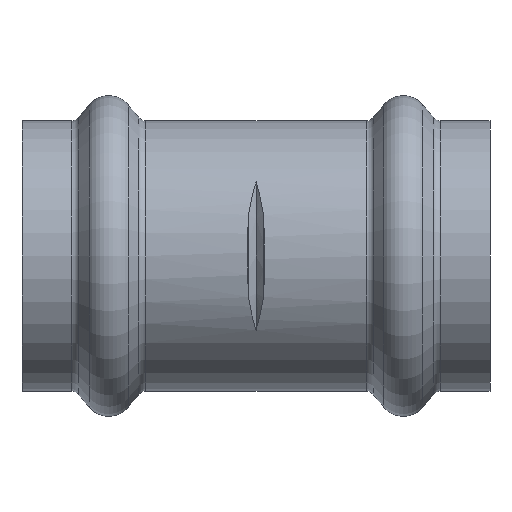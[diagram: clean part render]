
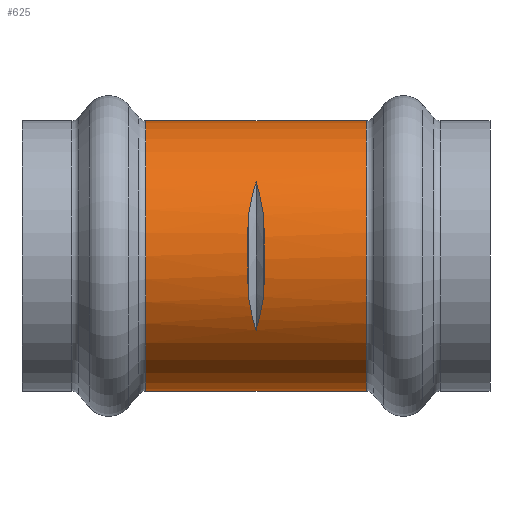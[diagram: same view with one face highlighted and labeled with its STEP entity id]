
A CAD part, front view. The second image highlights one B-rep face of the part: STEP entity #625.
In plain terms, the highlighted cylindrical face has radius 15.6 mm (diameter 31.2 mm), a partial arc.
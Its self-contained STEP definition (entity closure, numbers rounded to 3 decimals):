
#6 = CARTESIAN_POINT ( 'NONE',  ( -0.985, -15.523, 1.601 ) ) ;
#28 = CARTESIAN_POINT ( 'NONE',  ( -0.941, -15.292, 3.185 ) ) ;
#31 = AXIS2_PLACEMENT_3D ( 'NONE', #388, #433, #449 ) ;
#33 = CARTESIAN_POINT ( 'NONE',  ( 0.369, -13.82, 7.372 ) ) ;
#36 = B_SPLINE_CURVE_WITH_KNOTS ( 'NONE', 3,
 ( #630, #462, #1139, #1282 ),
 .UNSPECIFIED., .F., .F.,
 ( 4, 4 ),
 ( 0., 0.004 ),
 .UNSPECIFIED. ) ;
#41 = CARTESIAN_POINT ( 'NONE',  ( -0.906, -15.109, 3.966 ) ) ;
#42 = CARTESIAN_POINT ( 'NONE',  ( 0., -13.052, -8.545 ) ) ;
#44 = CARTESIAN_POINT ( 'NONE',  ( 0., -13.052, 8.545 ) ) ;
#46 = CARTESIAN_POINT ( 'NONE',  ( -16.83, 0., 15.6 ) ) ;
#51 = CARTESIAN_POINT ( 'NONE',  ( -12.736, 0., -15.6 ) ) ;
#60 = CARTESIAN_POINT ( 'NONE',  ( -0.859, -14.864, 4.735 ) ) ;
#64 = EDGE_CURVE ( 'NONE', #1340, #1218, #1606, .T. ) ;
#85 = CARTESIAN_POINT ( 'NONE',  ( 12.736, 0., 15.6 ) ) ;
#86 = ORIENTED_EDGE ( 'NONE', *, *, #1830, .T. ) ;
#106 = CARTESIAN_POINT ( 'NONE',  ( 0.985, -15.523, -1.601 ) ) ;
#109 = FACE_BOUND ( 'NONE', #1018, .T. ) ;
#117 = CARTESIAN_POINT ( 'NONE',  ( -0.976, -15.477, 1.999 ) ) ;
#142 = CARTESIAN_POINT ( 'NONE',  ( -1., -15.6, 0.395 ) ) ;
#159 = FACE_OUTER_BOUND ( 'NONE', #1022, .T. ) ;
#168 = CARTESIAN_POINT ( 'NONE',  ( -0.997, -15.585, 0.8 ) ) ;
#169 = CARTESIAN_POINT ( 'NONE',  ( -12.736, 0., 0. ) ) ;
#181 = AXIS2_PLACEMENT_3D ( 'NONE', #1303, #1268, #1137 ) ;
#198 = CARTESIAN_POINT ( 'NONE',  ( -0.369, -13.82, -7.372 ) ) ;
#204 = CARTESIAN_POINT ( 'NONE',  ( -0.988, -15.537, -1.611 ) ) ;
#242 = CARTESIAN_POINT ( 'NONE',  ( 0., -13.052, -8.545 ) ) ;
#255 = ORIENTED_EDGE ( 'NONE', *, *, #1485, .T. ) ;
#256 = CARTESIAN_POINT ( 'NONE',  ( 0.906, -15.109, 3.966 ) ) ;
#263 = CARTESIAN_POINT ( 'NONE',  ( 0.941, -15.292, -3.185 ) ) ;
#311 = CIRCLE ( 'NONE', #858, 15.6 ) ;
#318 = CARTESIAN_POINT ( 'NONE',  ( -1., -15.6, -0.814 ) ) ;
#337 = DIRECTION ( 'NONE',  ( 1., 0., 0. ) ) ;
#338 = VECTOR ( 'NONE', #551, 1000. ) ;
#341 = VERTEX_POINT ( 'NONE', #584 ) ;
#347 = CARTESIAN_POINT ( 'NONE',  ( 0., -13.052, -8.545 ) ) ;
#351 = DIRECTION ( 'NONE',  ( 0., 0., -1. ) ) ;
#388 = CARTESIAN_POINT ( 'NONE',  ( -16.83, 0., 0. ) ) ;
#433 = DIRECTION ( 'NONE',  ( -1., 0., 0. ) ) ;
#436 = CARTESIAN_POINT ( 'NONE',  ( 0.859, -14.864, -4.735 ) ) ;
#437 = EDGE_CURVE ( 'NONE', #1601, #1218, #311, .T. ) ;
#449 = DIRECTION ( 'NONE',  ( 0., 0., 1. ) ) ;
#451 = CARTESIAN_POINT ( 'NONE',  ( -0.655, -14.428, -6.104 ) ) ;
#462 = CARTESIAN_POINT ( 'NONE',  ( -0.655, -14.428, 6.104 ) ) ;
#466 = B_SPLINE_CURVE_WITH_KNOTS ( 'NONE', 3,
 ( #1618, #811, #483, #204, #318, #142, #168, #6, #117, #28, #41, #60 ),
 .UNSPECIFIED., .F., .F.,
 ( 4, 2, 2, 2, 2, 4 ),
 ( 0., 0.002, 0.005, 0.006, 0.007, 0.01 ),
 .UNSPECIFIED. ) ;
#483 = CARTESIAN_POINT ( 'NONE',  ( -0.941, -15.292, -3.187 ) ) ;
#534 = ORIENTED_EDGE ( 'NONE', *, *, #437, .T. ) ;
#551 = DIRECTION ( 'NONE',  ( -1., 0., 0. ) ) ;
#554 = CIRCLE ( 'NONE', #181, 15.6 ) ;
#584 = CARTESIAN_POINT ( 'NONE',  ( -0.859, -14.864, -4.735 ) ) ;
#588 = VERTEX_POINT ( 'NONE', #85 ) ;
#615 = EDGE_CURVE ( 'NONE', #1340, #588, #554, .T. ) ;
#625 = ADVANCED_FACE ( 'NONE', ( #159, #109 ), #1676, .T. ) ;
#630 = CARTESIAN_POINT ( 'NONE',  ( -0.859, -14.864, 4.735 ) ) ;
#636 = B_SPLINE_CURVE_WITH_KNOTS ( 'NONE', 3,
 ( #44, #33, #1113, #1166 ),
 .UNSPECIFIED., .F., .F.,
 ( 4, 4 ),
 ( 0., 0.004 ),
 .UNSPECIFIED. ) ;
#699 = VERTEX_POINT ( 'NONE', #1124 ) ;
#715 = ORIENTED_EDGE ( 'NONE', *, *, #1342, .T. ) ;
#733 = VERTEX_POINT ( 'NONE', #1436 ) ;
#763 = CARTESIAN_POINT ( 'NONE',  ( -0.859, -14.864, -4.735 ) ) ;
#764 = CARTESIAN_POINT ( 'NONE',  ( 0.941, -15.292, 3.187 ) ) ;
#784 = VECTOR ( 'NONE', #1074, 1000. ) ;
#811 = CARTESIAN_POINT ( 'NONE',  ( -0.906, -15.109, -3.966 ) ) ;
#822 = VERTEX_POINT ( 'NONE', #1883 ) ;
#851 = VERTEX_POINT ( 'NONE', #42 ) ;
#858 = AXIS2_PLACEMENT_3D ( 'NONE', #169, #337, #351 ) ;
#911 = VERTEX_POINT ( 'NONE', #974 ) ;
#943 = CARTESIAN_POINT ( 'NONE',  ( 1., -15.6, 0.814 ) ) ;
#955 = CARTESIAN_POINT ( 'NONE',  ( 12.736, 0., -15.6 ) ) ;
#974 = CARTESIAN_POINT ( 'NONE',  ( 0.859, -14.864, -4.735 ) ) ;
#1018 = EDGE_LOOP ( 'NONE', ( #86, #1826, #715, #255, #1319, #1031 ) ) ;
#1022 = EDGE_LOOP ( 'NONE', ( #1365, #1413, #1066, #534 ) ) ;
#1031 = ORIENTED_EDGE ( 'NONE', *, *, #1714, .T. ) ;
#1044 = EDGE_CURVE ( 'NONE', #911, #851, #1796, .T. ) ;
#1066 = ORIENTED_EDGE ( 'NONE', *, *, #1312, .T. ) ;
#1067 = CARTESIAN_POINT ( 'NONE',  ( -12.736, 0., 15.6 ) ) ;
#1074 = DIRECTION ( 'NONE',  ( -1., 0., 0. ) ) ;
#1098 = CARTESIAN_POINT ( 'NONE',  ( -16.83, 0., -15.6 ) ) ;
#1110 = CARTESIAN_POINT ( 'NONE',  ( 0.997, -15.585, -0.8 ) ) ;
#1113 = CARTESIAN_POINT ( 'NONE',  ( 0.655, -14.428, 6.104 ) ) ;
#1124 = CARTESIAN_POINT ( 'NONE',  ( 0., -13.052, 8.545 ) ) ;
#1137 = DIRECTION ( 'NONE',  ( 0., 0., 1. ) ) ;
#1139 = CARTESIAN_POINT ( 'NONE',  ( -0.369, -13.82, 7.372 ) ) ;
#1166 = CARTESIAN_POINT ( 'NONE',  ( 0.859, -14.864, 4.735 ) ) ;
#1218 = VERTEX_POINT ( 'NONE', #51 ) ;
#1262 = CARTESIAN_POINT ( 'NONE',  ( 0.976, -15.477, -1.999 ) ) ;
#1268 = DIRECTION ( 'NONE',  ( -1., 0., 0. ) ) ;
#1282 = CARTESIAN_POINT ( 'NONE',  ( 0., -13.052, 8.545 ) ) ;
#1303 = CARTESIAN_POINT ( 'NONE',  ( 12.736, 0., 0. ) ) ;
#1312 = EDGE_CURVE ( 'NONE', #588, #1601, #1915, .T. ) ;
#1319 = ORIENTED_EDGE ( 'NONE', *, *, #1527, .T. ) ;
#1340 = VERTEX_POINT ( 'NONE', #955 ) ;
#1342 = EDGE_CURVE ( 'NONE', #851, #341, #1913, .T. ) ;
#1365 = ORIENTED_EDGE ( 'NONE', *, *, #64, .F. ) ;
#1406 = CARTESIAN_POINT ( 'NONE',  ( 0.906, -15.109, -3.966 ) ) ;
#1413 = ORIENTED_EDGE ( 'NONE', *, *, #615, .T. ) ;
#1436 = CARTESIAN_POINT ( 'NONE',  ( 0.859, -14.864, 4.735 ) ) ;
#1485 = EDGE_CURVE ( 'NONE', #341, #822, #466, .T. ) ;
#1527 = EDGE_CURVE ( 'NONE', #822, #699, #36, .T. ) ;
#1587 = B_SPLINE_CURVE_WITH_KNOTS ( 'NONE', 3,
 ( #1843, #256, #764, #1786, #943, #1905, #1110, #106, #1262, #263, #1406, #436 ),
 .UNSPECIFIED., .F., .F.,
 ( 4, 2, 2, 2, 2, 4 ),
 ( 0., 0.002, 0.005, 0.006, 0.007, 0.01 ),
 .UNSPECIFIED. ) ;
#1601 = VERTEX_POINT ( 'NONE', #1067 ) ;
#1606 = LINE ( 'NONE', #1098, #338 ) ;
#1618 = CARTESIAN_POINT ( 'NONE',  ( -0.859, -14.864, -4.735 ) ) ;
#1670 = CARTESIAN_POINT ( 'NONE',  ( 0.859, -14.864, -4.735 ) ) ;
#1676 = CYLINDRICAL_SURFACE ( 'NONE', #31, 15.6 ) ;
#1714 = EDGE_CURVE ( 'NONE', #699, #733, #636, .T. ) ;
#1786 = CARTESIAN_POINT ( 'NONE',  ( 0.988, -15.537, 1.611 ) ) ;
#1796 = B_SPLINE_CURVE_WITH_KNOTS ( 'NONE', 3,
 ( #1670, #1798, #1887, #347 ),
 .UNSPECIFIED., .F., .F.,
 ( 4, 4 ),
 ( 0., 0.004 ),
 .UNSPECIFIED. ) ;
#1798 = CARTESIAN_POINT ( 'NONE',  ( 0.655, -14.428, -6.104 ) ) ;
#1826 = ORIENTED_EDGE ( 'NONE', *, *, #1044, .T. ) ;
#1830 = EDGE_CURVE ( 'NONE', #733, #911, #1587, .T. ) ;
#1843 = CARTESIAN_POINT ( 'NONE',  ( 0.859, -14.864, 4.735 ) ) ;
#1883 = CARTESIAN_POINT ( 'NONE',  ( -0.859, -14.864, 4.735 ) ) ;
#1887 = CARTESIAN_POINT ( 'NONE',  ( 0.369, -13.82, -7.372 ) ) ;
#1905 = CARTESIAN_POINT ( 'NONE',  ( 1., -15.6, -0.395 ) ) ;
#1913 = B_SPLINE_CURVE_WITH_KNOTS ( 'NONE', 3,
 ( #242, #198, #451, #763 ),
 .UNSPECIFIED., .F., .F.,
 ( 4, 4 ),
 ( 0., 0.004 ),
 .UNSPECIFIED. ) ;
#1915 = LINE ( 'NONE', #46, #784 ) ;
